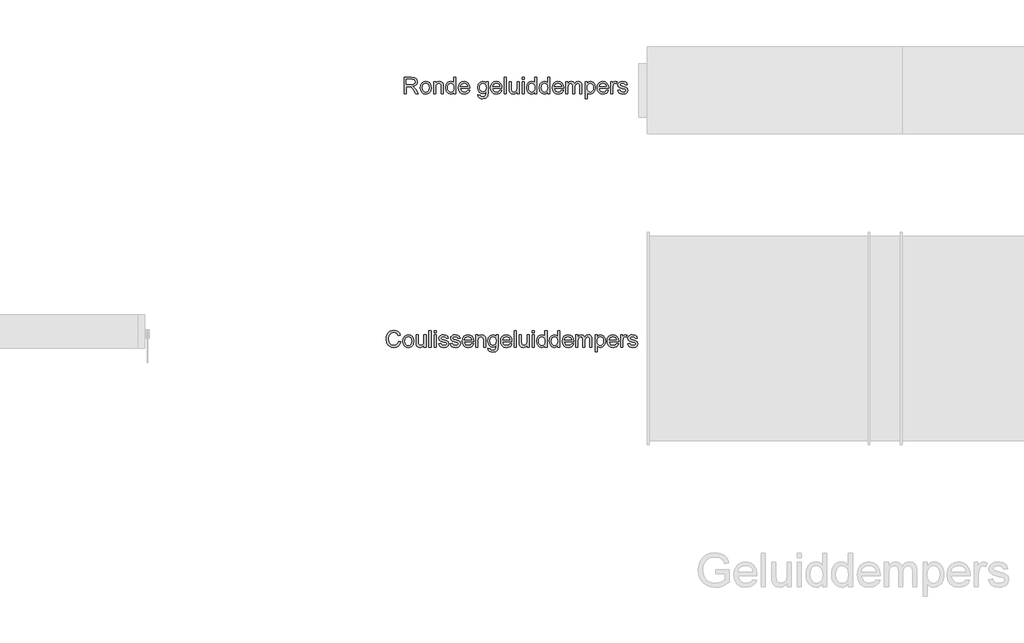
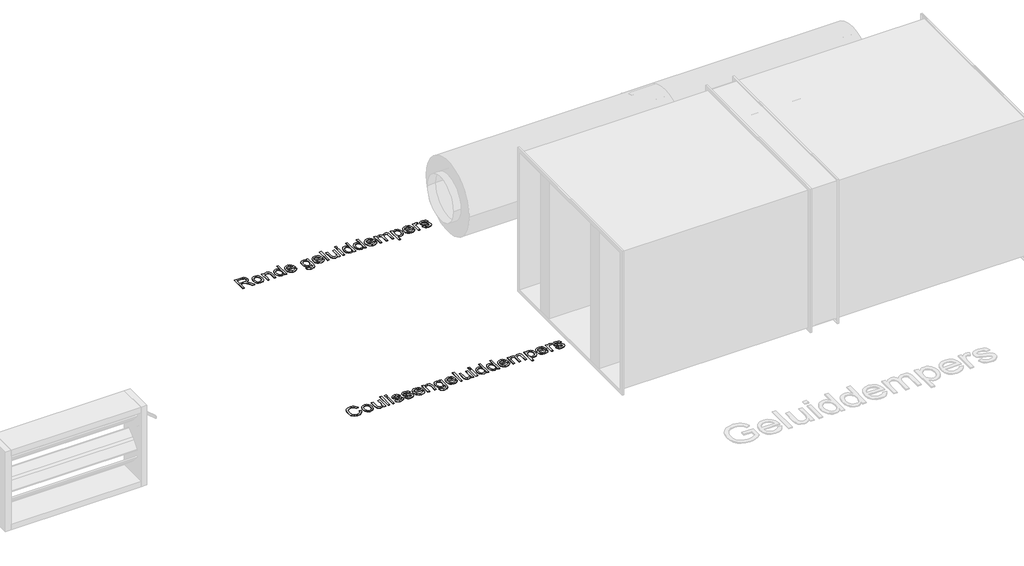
# One storey, part 9 of 10: 2 proxies.
"""IFC4 building model written with IfcOpenShell, lengths in millimetres."""

import ifcopenshell
import ifcopenshell.guid

model = None  # the IFC model being written
_history = None  # IfcOwnerHistory: only IFC2X3 demands one
_inside = {}  # id of a spatial element -> (the spatial element, [elements in it])
_under = {}  # id of a project, library or spatial element -> (it, [spatial elements below it])
_declared = {}  # id of a project -> (the project, [libraries it declares])
_typed = {}  # id of a type object -> (the type object, [elements of that type])
_made_of = {}  # id of a material, layer set ... -> (it, [elements and type objects made of it])


def new_model(schema):
    """Start an empty IFC model of exactly this schema.

    Asked for "IFC4X3", IfcOpenShell would pick the latest addendum, in which some entities
    have other attributes; the version numbers below select the first issue.
    IFC2X3 requires an IfcOwnerHistory on every rooted entity: one is made here for all.
    """
    global model, _history
    if schema == "IFC4X3":
        model = ifcopenshell.file(schema_version=(4, 3, 0, 0))
    else:
        model = ifcopenshell.file(schema=schema)
    _inside.clear()
    _under.clear()
    _declared.clear()
    _typed.clear()
    _made_of.clear()
    _history = None
    if model.schema == "IFC2X3":
        org = make("IfcOrganization", Name="unknown")
        user = make(
            "IfcPersonAndOrganization",
            ThePerson=make("IfcPerson", FamilyName="unknown"),
            TheOrganization=org,
        )
        app = make(
            "IfcApplication",
            ApplicationDeveloper=org,
            Version="unknown",
            ApplicationFullName="unknown",
            ApplicationIdentifier="unknown",
        )
        _history = make(
            "IfcOwnerHistory",
            OwningUser=user,
            OwningApplication=app,
            ChangeAction="ADDED",
            CreationDate=0,
        )
    return model


def make(cls, **values):
    """One entity of the class cls with the attributes given. An attribute that is None is left unset."""
    return model.create_entity(
        cls, **{name: value for name, value in values.items() if value is not None}
    )


def rooted(cls, **values):
    """An entity with a GlobalId (a new one), such as an element, a storey or a relation."""
    return make(cls, GlobalId=ifcopenshell.guid.new(), OwnerHistory=_history, **values)


def si_unit(unit_type, name, prefix=None):
    """IfcSIUnit, for example si_unit("LENGTHUNIT", "METRE", prefix="MILLI")."""
    return make("IfcSIUnit", UnitType=unit_type, Prefix=prefix, Name=name)


def assignment(units):
    """IfcUnitAssignment: the units of a project."""
    return None if units is None else make("IfcUnitAssignment", Units=units)


def point(xyz):
    """IfcCartesianPoint."""
    return None if xyz is None else make("IfcCartesianPoint", Coordinates=xyz)


def direction(xyz):
    """IfcDirection."""
    return None if xyz is None else make("IfcDirection", DirectionRatios=xyz)


def frame(location, z_axis=None, x_axis=None):
    """IfcAxis2Placement3D, a coordinate frame: its origin and axes. An axis left out is left unset."""
    return make(
        "IfcAxis2Placement3D",
        Location=point(location),
        Axis=direction(z_axis),
        RefDirection=direction(x_axis),
    )


def origin():
    """The frame at (0, 0, 0) with its axes left unset."""
    return frame((0.0, 0.0, 0.0))


def origin_with_axes():
    """The frame at (0, 0, 0) with the z axis (0, 0, 1) and the x axis (1, 0, 0) written out."""
    return frame((0.0, 0.0, 0.0), z_axis=(0.0, 0.0, 1.0), x_axis=(1.0, 0.0, 0.0))


def place(relative_to, where):
    """IfcLocalPlacement: puts the frame where relative to a parent placement (None: the world)."""
    return make(
        "IfcLocalPlacement", PlacementRelTo=relative_to, RelativePlacement=where
    )


def context(
    kind, dimensions, precision=None, world=None, true_north=None, identifier=None
):
    """IfcGeometricRepresentationContext, for example the 3D "Model" context."""
    return make(
        "IfcGeometricRepresentationContext",
        ContextIdentifier=identifier,
        ContextType=kind,
        CoordinateSpaceDimension=dimensions,
        Precision=precision,
        WorldCoordinateSystem=world,
        TrueNorth=true_north,
    )


def project(units=None, contexts=None):
    """IfcProject with its units and contexts."""
    return rooted(
        "IfcProject",
        Name="project",
        RepresentationContexts=contexts,
        UnitsInContext=assignment(units),
    )


def spatial(cls, under=None, at=None, **own):
    """A site, building, storey or space (cls), placed at a placement, below another one or the project."""
    s = rooted(cls, ObjectPlacement=at, **own)
    if under is not None:
        _under.setdefault(under.id(), (under, []))[1].append(s)
    return s


def polyline(points):
    """IfcPolyline through the points."""
    return make("IfcPolyline", Points=[point(p) for p in points])


def outline(outer, holes=None, kind="AREA"):
    """IfcArbitraryClosedProfileDef: a profile drawn as a closed curve; with holes, ...WithVoids."""
    if holes is None:
        return make("IfcArbitraryClosedProfileDef", ProfileType=kind, OuterCurve=outer)
    return make(
        "IfcArbitraryProfileDefWithVoids",
        ProfileType=kind,
        OuterCurve=outer,
        InnerCurves=holes,
    )


def extrude(swept, where, along, depth):
    """IfcExtrudedAreaSolid: the profile swept, set in the frame where, extruded along a direction by depth."""
    return make(
        "IfcExtrudedAreaSolid",
        SweptArea=swept,
        Position=where,
        ExtrudedDirection=direction(along),
        Depth=depth,
    )


def shape(context_of_items, identifier, shape_type, items):
    """IfcShapeRepresentation: the items that make up one representation, for example the "Body"."""
    return make(
        "IfcShapeRepresentation",
        ContextOfItems=context_of_items,
        RepresentationIdentifier=identifier,
        RepresentationType=shape_type,
        Items=items,
    )


def made_of(thing, what):
    """Note that an element or type object is made of a material, layer set ...; save() writes the relation."""
    if what is not None:
        _made_of.setdefault(what.id(), (what, []))[1].append(thing)
    return thing


def element(
    cls,
    number,
    at=None,
    inside=None,
    cuts=None,
    type_object=None,
    material=None,
    context=None,
    identifier="Body",
    shape_type=None,
    held_by="IfcProductDefinitionShape",
    body=None,
    shapes=None,
    **own,
):
    """One element of the class cls, such as IfcWall. Its Tag is "e" and its number.

    at: its placement. inside: the storey or other place that contains it. cuts: it is an
    opening in that element (IfcRelVoidsElement). A single representation is given by context,
    identifier, shape_type and body (its items); several are given by shapes. held_by: the class
    of the entity that holds the representations. save() writes the other relations.
    """
    e = rooted(cls, Tag="e%d" % number, ObjectPlacement=at, **own)
    if body is not None:
        shapes = [shape(context, identifier, shape_type, body)]
    if shapes is not None:
        e.Representation = make(held_by, Representations=shapes)
    if inside is not None:
        _inside.setdefault(inside.id(), (inside, []))[1].append(e)
    if cuts is not None:
        rooted(
            "IfcRelVoidsElement", RelatingBuildingElement=cuts, RelatedOpeningElement=e
        )
    if type_object is not None:
        _typed.setdefault(type_object.id(), (type_object, []))[1].append(e)
    return made_of(e, material)


def aggregate(whole, parts):
    """IfcRelAggregates: a whole, such as a stair, and the parts it consists of."""
    return rooted("IfcRelAggregates", RelatingObject=whole, RelatedObjects=parts)


def save(model, path):
    """Write the relations noted so far, then the file.

    IfcRelAggregates (storeys below a building ...), IfcRelContainedInSpatialStructure (elements
    in a storey), IfcRelDefinesByType, IfcRelAssociatesMaterial and IfcRelDeclares: one each for
    every whole, place, type object, material and project.
    """
    for whole, parts in _under.values():
        aggregate(whole, parts)
    for where, things in _inside.values():
        rooted(
            "IfcRelContainedInSpatialStructure",
            RelatedElements=things,
            RelatingStructure=where,
        )
    for kind, things in _typed.values():
        rooted("IfcRelDefinesByType", RelatedObjects=things, RelatingType=kind)
    for what, things in _made_of.values():
        rooted("IfcRelAssociatesMaterial", RelatedObjects=things, RelatingMaterial=what)
    for by, libraries in _declared.values():
        rooted("IfcRelDeclares", RelatingContext=by, RelatedDefinitions=libraries)
    model.write(path)


model = new_model("IFC4")

# Units and contexts
model_context = context("Model", 3, world=origin())
ifc_project = project(units=[si_unit("LENGTHUNIT", "METRE", prefix="MILLI")], contexts=[model_context])

# Site, building, storey
site = spatial("IfcSite", under=ifc_project)
building = spatial("IfcBuilding", under=site)
storey = spatial("IfcBuildingStorey", under=building, Name="Ventilatieroosters", Elevation=0.0)

# Proxies
placement = place(None, origin())
element("IfcBuildingElementProxy", 1, Name="100mm", ObjectType="100mm", at=placement, inside=storey, context=model_context, shape_type="SweptSolid", body=[
    extrude(outline(polyline([(17095.3673206, -15089.2400599), (17107.6750129, -15092.4131369), (17101.9959264, -15106.755084), (17093.0836668, -15117.2328484), (17081.376936, -15123.6421032), (17067.314436, -15125.7785215), (17053.0385946, -15124.1619349), (17041.7014552, -15119.3121753), (17033.0115514, -15111.3975119), (17026.6774168, -15100.5862138), (17021.5211668, -15074.2640984), (17022.9784985, -15059.9071272), (17027.3504937, -15047.5092907), (17034.4087869, -15037.4642186), (17043.9250129, -15030.1655407), (17067.5788591, -15024.2400599), (17081.0734504, -15026.1571272), (17092.2303014, -15031.9083292), (17100.7008543, -15041.1390984), (17106.1365514, -15053.4948676), (17093.8288591, -15056.4275599), (17083.7327052, -15041.2953484), (17067.0980898, -15036.5477522), (17047.8432821, -15041.8121753), (17036.9658783, -15055.9467907), (17033.8288591, -15074.2400599), (17037.5428014, -15095.441983), (17049.1053014, -15108.9876561), (17066.0884744, -15113.4708292), (17076.3619119, -15111.9443869), (17084.9226091, -15107.3650599), (17091.3859504, -15099.7809253), (17095.3673206, -15089.2400599)])), origin_with_axes(), (0.0, 0.0, 1.0), 2.0),
    extrude(outline(polyline([(17119.9827052, -15088.0862138), (17122.6449648, -15070.6523196), (17130.6317437, -15058.3987138), (17140.4995321, -15052.395108), (17152.314436, -15050.3939061), (17165.2441235, -15052.8308051), (17175.5716475, -15060.1415022), (17182.3414793, -15071.7490744), (17184.5980898, -15087.0765984), (17180.6077052, -15108.9756369), (17168.9851091, -15121.3674638), (17152.314436, -15125.7785215), (17139.2284985, -15123.3506369), (17128.9129937, -15116.066983), (17122.2152773, -15104.2160215), (17119.9827052, -15088.0862138)]), holes=[polyline([(17132.2903975, -15088.0621753), (17133.7146764, -15099.2009974), (17137.9875129, -15107.1366946), (17144.4178014, -15111.8872955), (17152.314436, -15113.4708292), (17160.1750129, -15111.8782811), (17166.5932821, -15107.1006369), (17170.8661187, -15099.0597715), (17172.2903975, -15087.6775599), (17170.8571043, -15076.8632571), (17166.5572244, -15069.035733), (17160.1299408, -15064.2851321), (17152.314436, -15062.7015984), (17144.4178014, -15064.2791224), (17137.9875129, -15069.0116946), (17133.7146764, -15076.9293628), (17132.2903975, -15088.0621753)])]), origin_with_axes(), (0.0, 0.0, 1.0), 2.0),
    extrude(outline(polyline([(17244.5980898, -15124.2400599), (17244.5980898, -15111.8121753), (17234.9586668, -15122.2869349), (17222.3865514, -15125.7785215), (17210.8120321, -15123.3265984), (17202.8312629, -15117.1727522), (17199.1653975, -15108.1102522), (17198.4442437, -15096.6679446), (17198.4442437, -15051.9323676), (17210.751936, -15051.9323676), (17210.751936, -15090.8746753), (17211.4971283, -15103.4227522), (17216.3649168, -15110.7905407), (17225.5355898, -15113.4708292), (17235.8120321, -15110.7304446), (17242.6028975, -15103.2665022), (17244.5980898, -15089.5525599), (17244.5980898, -15051.9323676), (17256.9057821, -15051.9323676), (17256.9057821, -15124.2400599), (17244.5980898, -15124.2400599)])), origin_with_axes(), (0.0, 0.0, 1.0), 2.0),
    extrude(outline(polyline([(17273.8288591, -15124.2400599), (17273.8288591, -15025.7785215), (17286.1365514, -15025.7785215), (17286.1365514, -15124.2400599), (17273.8288591, -15124.2400599)])), origin_with_axes(), (0.0, 0.0, 1.0), 2.0),
    extrude(outline(polyline([(17304.5980898, -15124.2400599), (17304.5980898, -15051.9323676), (17316.9057821, -15051.9323676), (17316.9057821, -15124.2400599), (17304.5980898, -15124.2400599)])), origin_with_axes(), (0.0, 0.0, 1.0), 2.0),
    extrude(outline(polyline([(17304.5980898, -15038.0862138), (17304.5980898, -15025.7785215), (17316.9057821, -15025.7785215), (17316.9057821, -15038.0862138), (17304.5980898, -15038.0862138)])), origin_with_axes(), (0.0, 0.0, 1.0), 2.0),
    extrude(outline(polyline([(17330.751936, -15102.7015984), (17343.0596283, -15101.1631369), (17348.7567437, -15110.2977522), (17361.8096283, -15113.4708292), (17374.3577052, -15110.5621753), (17378.4442437, -15103.7352522), (17374.3336668, -15098.2064061), (17361.6653975, -15094.6967907), (17343.1317437, -15088.6751561), (17335.0428014, -15081.6439061), (17332.2903975, -15071.7160215), (17334.501936, -15062.5453484), (17340.5355898, -15055.5381369), (17348.3601091, -15051.8963099), (17358.9490514, -15050.3939061), (17373.9250129, -15052.8097715), (17383.4442437, -15059.348233), (17387.6750129, -15070.3939061), (17375.3673206, -15071.9323676), (17370.7399168, -15065.1415022), (17359.9105898, -15062.7015984), (17348.1317437, -15065.0333292), (17344.5980898, -15070.4660215), (17346.064436, -15074.0477522), (17350.6557821, -15076.7640984), (17361.2567437, -15079.3842907), (17379.3216475, -15085.1775599), (17387.7110706, -15091.7400599), (17390.751936, -15102.4371753), (17387.1822244, -15114.2160215), (17376.8817437, -15122.7616946), (17361.6413591, -15125.7785215), (17349.2315033, -15124.3241946), (17340.1750129, -15119.9612138), (17334.1293398, -15112.7376561), (17330.751936, -15102.7015984)])), origin_with_axes(), (0.0, 0.0, 1.0), 2.0),
    extrude(outline(polyline([(17399.9827052, -15102.7015984), (17412.2903975, -15101.1631369), (17417.9875129, -15110.2977522), (17431.0403975, -15113.4708292), (17443.5884744, -15110.5621753), (17447.6750129, -15103.7352522), (17443.564436, -15098.2064061), (17430.8961668, -15094.6967907), (17412.3625129, -15088.6751561), (17404.2735706, -15081.6439061), (17401.5211668, -15071.7160215), (17403.7327052, -15062.5453484), (17409.7663591, -15055.5381369), (17417.5908783, -15051.8963099), (17428.1798206, -15050.3939061), (17443.1557821, -15052.8097715), (17452.6750129, -15059.348233), (17456.9057821, -15070.3939061), (17444.5980898, -15071.9323676), (17439.970686, -15065.1415022), (17429.1413591, -15062.7015984), (17417.3625129, -15065.0333292), (17413.8288591, -15070.4660215), (17415.2952052, -15074.0477522), (17419.8865514, -15076.7640984), (17430.4875129, -15079.3842907), (17448.5524168, -15085.1775599), (17456.9418398, -15091.7400599), (17459.9827052, -15102.4371753), (17456.4129937, -15114.2160215), (17446.1125129, -15122.7616946), (17430.8721283, -15125.7785215), (17418.4622725, -15124.3241946), (17409.4057821, -15119.9612138), (17403.3601091, -15112.7376561), (17399.9827052, -15102.7015984)])), origin_with_axes(), (0.0, 0.0, 1.0), 2.0),
    extrude(outline(polyline([(17524.4538591, -15102.7015984), (17536.5211668, -15104.2400599), (17532.17321, -15113.332608), (17525.2351091, -15120.129483), (17515.8631139, -15124.3662619), (17504.2134744, -15125.7785215), (17489.7723687, -15123.3416224), (17478.6605898, -15116.0309253), (17471.5752533, -15104.3211897), (17469.2134744, -15088.6871753), (17471.5992918, -15072.5273196), (17478.7567437, -15060.441983), (17489.7182821, -15052.9059253), (17503.5163591, -15050.3939061), (17516.8847485, -15052.8999157), (17527.5668398, -15060.4179446), (17534.5710466, -15072.4792426), (17536.9057821, -15088.6150599), (17536.8336668, -15091.9323676), (17481.5211668, -15091.9323676), (17483.6515754, -15101.145108), (17488.6004937, -15107.9179446), (17504.4538591, -15113.4708292), (17516.5211668, -15110.8987138), (17524.4538591, -15102.7015984)]), holes=[polyline([(17481.5211668, -15079.6246753), (17524.5980898, -15079.6246753), (17519.6702052, -15068.4708292), (17512.4947244, -15064.1439061), (17503.4682821, -15062.7015984), (17488.3120321, -15067.3049638), (17481.5211668, -15079.6246753)])]), origin_with_axes(), (0.0, 0.0, 1.0), 2.0),
    extrude(outline(polyline([(17549.2134744, -15124.2400599), (17549.2134744, -15051.9323676), (17561.5211668, -15051.9323676), (17561.5211668, -15062.0285215), (17570.9322244, -15053.3025599), (17583.7807821, -15050.3939061), (17595.4033783, -15052.7376561), (17603.3360706, -15058.8915022), (17607.0259744, -15067.941983), (17607.6750129, -15079.8410215), (17607.6750129, -15124.2400599), (17595.3673206, -15124.2400599), (17595.3673206, -15081.4996753), (17593.9490514, -15070.6102522), (17588.9370321, -15064.8530407), (17580.4875129, -15062.7015984), (17567.1341475, -15067.5333292), (17562.9244119, -15074.5345311), (17561.5211668, -15085.8746753), (17561.5211668, -15124.2400599), (17549.2134744, -15124.2400599)])), origin_with_axes(), (0.0, 0.0, 1.0), 2.0),
    extrude(outline(polyline([(17621.5211668, -15130.3939061), (17633.8288591, -15131.9323676), (17637.8192437, -15138.4227522), (17649.7663591, -15141.1631369), (17662.3625129, -15138.0621753), (17668.3721283, -15129.3602522), (17669.2134744, -15115.0092907), (17660.5476091, -15121.9323676), (17649.9827052, -15124.2400599), (17637.2934023, -15121.5537619), (17627.8312629, -15113.4948676), (17621.9448446, -15101.6799638), (17619.9827052, -15087.7256369), (17623.5043398, -15068.6511176), (17633.6966475, -15055.1535215), (17649.3817437, -15050.3939061), (17660.361311, -15053.0862138), (17669.2134744, -15061.1631369), (17669.2134744, -15051.9323676), (17681.5211668, -15051.9323676), (17681.5211668, -15114.3602522), (17678.1557821, -15138.2665022), (17667.4947244, -15149.3842907), (17649.5259744, -15153.4708292), (17638.0746523, -15152.0315263), (17629.0572244, -15147.7136176), (17623.2729696, -15140.505084), (17621.5211668, -15130.3939061)]), holes=[polyline([(17632.2903975, -15086.8842907), (17633.6034985, -15098.1733532), (17637.5428014, -15105.9347715), (17643.4652773, -15110.4329686), (17650.7278975, -15111.9323676), (17657.9364312, -15110.441983), (17663.8889552, -15105.9708292), (17667.8823446, -15098.3085696), (17669.2134744, -15087.2448676), (17667.8432821, -15076.5747955), (17663.7327052, -15068.8915022), (17657.6930418, -15064.2490744), (17650.5355898, -15062.7015984), (17643.5073446, -15064.2250359), (17637.6149168, -15068.7953484), (17633.6215273, -15076.364459), (17632.2903975, -15086.8842907)])]), origin_with_axes(), (0.0, 0.0, 1.0), 2.0),
    extrude(outline(polyline([(17750.6077052, -15102.7015984), (17762.6750129, -15104.2400599), (17758.3270562, -15113.332608), (17751.3889552, -15120.129483), (17742.01696, -15124.3662619), (17730.3673206, -15125.7785215), (17715.9262148, -15123.3416224), (17704.814436, -15116.0309253), (17697.7290994, -15104.3211897), (17695.3673206, -15088.6871753), (17697.7531379, -15072.5273196), (17704.9105898, -15060.441983), (17715.8721283, -15052.9059253), (17729.6702052, -15050.3939061), (17743.0385946, -15052.8999157), (17753.720686, -15060.4179446), (17760.7248927, -15072.4792426), (17763.0596283, -15088.6150599), (17762.9875129, -15091.9323676), (17707.6750129, -15091.9323676), (17709.8054216, -15101.145108), (17714.7543398, -15107.9179446), (17730.6077052, -15113.4708292), (17742.6750129, -15110.8987138), (17750.6077052, -15102.7015984)]), holes=[polyline([(17707.6750129, -15079.6246753), (17750.751936, -15079.6246753), (17745.8240514, -15068.4708292), (17738.6485706, -15064.1439061), (17729.6221283, -15062.7015984), (17714.4658783, -15067.3049638), (17707.6750129, -15079.6246753)])]), origin_with_axes(), (0.0, 0.0, 1.0), 2.0),
    extrude(outline(polyline([(17775.3673206, -15124.2400599), (17775.3673206, -15025.7785215), (17787.6750129, -15025.7785215), (17787.6750129, -15124.2400599), (17775.3673206, -15124.2400599)])), origin_with_axes(), (0.0, 0.0, 1.0), 2.0),
    extrude(outline(polyline([(17852.2903975, -15124.2400599), (17852.2903975, -15111.8121753), (17842.6509744, -15122.2869349), (17830.0788591, -15125.7785215), (17818.5043398, -15123.3265984), (17810.5235706, -15117.1727522), (17806.8577052, -15108.1102522), (17806.1365514, -15096.6679446), (17806.1365514, -15051.9323676), (17818.4442437, -15051.9323676), (17818.4442437, -15090.8746753), (17819.189436, -15103.4227522), (17824.0572244, -15110.7905407), (17833.2278975, -15113.4708292), (17843.5043398, -15110.7304446), (17850.2952052, -15103.2665022), (17852.2903975, -15089.5525599), (17852.2903975, -15051.9323676), (17864.5980898, -15051.9323676), (17864.5980898, -15124.2400599), (17852.2903975, -15124.2400599)])), origin_with_axes(), (0.0, 0.0, 1.0), 2.0),
    extrude(outline(polyline([(17881.5211668, -15124.2400599), (17881.5211668, -15051.9323676), (17893.8288591, -15051.9323676), (17893.8288591, -15124.2400599), (17881.5211668, -15124.2400599)])), origin_with_axes(), (0.0, 0.0, 1.0), 2.0),
    extrude(outline(polyline([(17881.5211668, -15038.0862138), (17881.5211668, -15025.7785215), (17893.8288591, -15025.7785215), (17893.8288591, -15038.0862138), (17881.5211668, -15038.0862138)])), origin_with_axes(), (0.0, 0.0, 1.0), 2.0),
    extrude(outline(polyline([(17956.9057821, -15124.2400599), (17956.9057821, -15112.629483), (17948.7627533, -15122.4912619), (17937.5067437, -15125.7785215), (17922.2663591, -15121.0189061), (17911.4971283, -15107.7376561), (17907.6750129, -15088.1583292), (17911.1966475, -15068.566983), (17921.7495321, -15055.0814061), (17937.4586668, -15050.3939061), (17948.8048206, -15053.7472715), (17956.9057821, -15062.4612138), (17956.9057821, -15025.7785215), (17969.2134744, -15025.7785215), (17969.2134744, -15124.2400599), (17956.9057821, -15124.2400599)]), holes=[polyline([(17919.9827052, -15088.1102522), (17921.3709264, -15099.2430647), (17925.5355898, -15107.160733), (17931.5872725, -15111.8933051), (17938.6365514, -15113.4708292), (17945.6828254, -15111.9654205), (17951.5812629, -15107.4491946), (17955.5746523, -15099.8380167), (17956.9057821, -15089.0477522), (17955.5506139, -15077.2508772), (17951.4851091, -15069.0717907), (17945.4364312, -15064.2941465), (17938.1317437, -15062.7015984), (17931.0103494, -15064.2310455), (17925.1750129, -15068.8193869), (17921.2807821, -15076.7009974), (17919.9827052, -15088.1102522)])]), origin_with_axes(), (0.0, 0.0, 1.0), 2.0),
    extrude(outline(polyline([(18032.2903975, -15124.2400599), (18032.2903975, -15112.629483), (18024.1473687, -15122.4912619), (18012.8913591, -15125.7785215), (17997.6509744, -15121.0189061), (17986.8817437, -15107.7376561), (17983.0596283, -15088.1583292), (17986.5812629, -15068.566983), (17997.1341475, -15055.0814061), (18012.8432821, -15050.3939061), (18024.189436, -15053.7472715), (18032.2903975, -15062.4612138), (18032.2903975, -15025.7785215), (18044.5980898, -15025.7785215), (18044.5980898, -15124.2400599), (18032.2903975, -15124.2400599)]), holes=[polyline([(17995.3673206, -15088.1102522), (17996.7555418, -15099.2430647), (18000.9202052, -15107.160733), (18006.9718879, -15111.8933051), (18014.0211668, -15113.4708292), (18021.0674408, -15111.9654205), (18026.9658783, -15107.4491946), (18030.9592677, -15099.8380167), (18032.2903975, -15089.0477522), (18030.9352293, -15077.2508772), (18026.8697244, -15069.0717907), (18020.8210466, -15064.2941465), (18013.5163591, -15062.7015984), (18006.3949648, -15064.2310455), (18000.5596283, -15068.8193869), (17996.6653975, -15076.7009974), (17995.3673206, -15088.1102522)])]), origin_with_axes(), (0.0, 0.0, 1.0), 2.0),
    extrude(outline(polyline([(18113.6846283, -15102.7015984), (18125.751936, -15104.2400599), (18121.4039793, -15113.332608), (18114.4658783, -15120.129483), (18105.0938831, -15124.3662619), (18093.4442437, -15125.7785215), (18079.0031379, -15123.3416224), (18067.8913591, -15116.0309253), (18060.8060225, -15104.3211897), (18058.4442437, -15088.6871753), (18060.830061, -15072.5273196), (18067.9875129, -15060.441983), (18078.9490514, -15052.9059253), (18092.7471283, -15050.3939061), (18106.1155177, -15052.8999157), (18116.7976091, -15060.4179446), (18123.8018158, -15072.4792426), (18126.1365514, -15088.6150599), (18126.064436, -15091.9323676), (18070.751936, -15091.9323676), (18072.8823446, -15101.145108), (18077.8312629, -15107.9179446), (18093.6846283, -15113.4708292), (18105.751936, -15110.8987138), (18113.6846283, -15102.7015984)]), holes=[polyline([(18070.751936, -15079.6246753), (18113.8288591, -15079.6246753), (18108.9009744, -15068.4708292), (18101.7254937, -15064.1439061), (18092.6990514, -15062.7015984), (18077.5428014, -15067.3049638), (18070.751936, -15079.6246753)])]), origin_with_axes(), (0.0, 0.0, 1.0), 2.0),
    extrude(outline(polyline([(18138.4442437, -15124.2400599), (18138.4442437, -15051.9323676), (18150.751936, -15051.9323676), (18150.751936, -15063.8314061), (18159.2134744, -15054.0838099), (18171.2567437, -15050.3939061), (18183.5884744, -15054.1559253), (18190.3673206, -15064.6967907), (18199.970686, -15053.9696272), (18212.0980898, -15050.3939061), (18221.3498927, -15051.8812859), (18228.1918398, -15056.3434253), (18232.4196043, -15063.9005167), (18233.8288591, -15074.6727522), (18233.8288591, -15124.2400599), (18221.5211668, -15124.2400599), (18221.5211668, -15079.9612138), (18220.3793398, -15069.6847715), (18216.2447244, -15064.6246753), (18209.2134744, -15062.7015984), (18197.1101091, -15067.629483), (18192.2903975, -15083.4227522), (18192.2903975, -15124.2400599), (18179.9827052, -15124.2400599), (18179.9827052, -15078.5910215), (18177.1341475, -15066.6679446), (18167.7952052, -15062.7015984), (18158.6846283, -15065.3458292), (18152.626936, -15073.0862138), (18150.751936, -15087.7737138), (18150.751936, -15124.2400599), (18138.4442437, -15124.2400599)])), origin_with_axes(), (0.0, 0.0, 1.0), 2.0),
    extrude(outline(polyline([(18252.2903975, -15151.9323676), (18252.2903975, -15051.9323676), (18264.5980898, -15051.9323676), (18264.5980898, -15063.9996753), (18273.1077052, -15053.7953484), (18284.5980898, -15050.3939061), (18300.1990514, -15055.1535215), (18310.3913591, -15068.566983), (18313.8288591, -15087.5333292), (18309.9466475, -15107.473233), (18298.6726091, -15121.0549638), (18283.1077052, -15125.7785215), (18272.3985706, -15122.6174638), (18264.5980898, -15114.6246753), (18264.5980898, -15151.9323676), (18252.2903975, -15151.9323676)]), holes=[polyline([(18264.5980898, -15088.6631369), (18265.9292196, -15099.6967907), (18269.9226091, -15107.4131369), (18275.8150369, -15111.9564061), (18282.8432821, -15113.4708292), (18289.98571, -15111.9023196), (18296.0283783, -15107.1967907), (18300.1479696, -15099.1979926), (18301.5211668, -15087.7496753), (18300.1810225, -15076.7761176), (18296.1605898, -15068.9515984), (18290.2771764, -15064.2640984), (18283.3480898, -15062.7015984), (18276.39196, -15064.3632571), (18270.283186, -15069.348233), (18266.0193639, -15077.5002763), (18264.5980898, -15088.6631369)])]), origin_with_axes(), (0.0, 0.0, 1.0), 2.0),
    extrude(outline(polyline([(18378.3000129, -15102.7015984), (18390.3673206, -15104.2400599), (18386.0193639, -15113.332608), (18379.0812629, -15120.129483), (18369.7092677, -15124.3662619), (18358.0596283, -15125.7785215), (18343.6185225, -15123.3416224), (18332.5067437, -15116.0309253), (18325.4214071, -15104.3211897), (18323.0596283, -15088.6871753), (18325.4454456, -15072.5273196), (18332.6028975, -15060.441983), (18343.564436, -15052.9059253), (18357.3625129, -15050.3939061), (18370.7309023, -15052.8999157), (18381.4129937, -15060.4179446), (18388.4172004, -15072.4792426), (18390.751936, -15088.6150599), (18390.6798206, -15091.9323676), (18335.3673206, -15091.9323676), (18337.4977293, -15101.145108), (18342.4466475, -15107.9179446), (18358.3000129, -15113.4708292), (18370.3673206, -15110.8987138), (18378.3000129, -15102.7015984)]), holes=[polyline([(18335.3673206, -15079.6246753), (18378.4442437, -15079.6246753), (18373.5163591, -15068.4708292), (18366.3408783, -15064.1439061), (18357.314436, -15062.7015984), (18342.158186, -15067.3049638), (18335.3673206, -15079.6246753)])]), origin_with_axes(), (0.0, 0.0, 1.0), 2.0),
    extrude(outline(polyline([(18403.0596283, -15124.2400599), (18403.0596283, -15051.9323676), (18413.8288591, -15051.9323676), (18413.8288591, -15062.629483), (18421.4730898, -15052.7737138), (18429.1653975, -15050.3939061), (18441.5211668, -15054.191983), (18437.4105898, -15065.2256369), (18428.7567437, -15062.7015984), (18421.7976091, -15065.129483), (18417.3625129, -15071.8602522), (18415.3673206, -15086.2352522), (18415.3673206, -15124.2400599), (18403.0596283, -15124.2400599)])), origin_with_axes(), (0.0, 0.0, 1.0), 2.0),
    extrude(outline(polyline([(18444.5980898, -15102.7015984), (18456.9057821, -15101.1631369), (18462.6028975, -15110.2977522), (18475.6557821, -15113.4708292), (18488.2038591, -15110.5621753), (18492.2903975, -15103.7352522), (18488.1798206, -15098.2064061), (18475.5115514, -15094.6967907), (18456.9778975, -15088.6751561), (18448.8889552, -15081.6439061), (18446.1365514, -15071.7160215), (18448.3480898, -15062.5453484), (18454.3817437, -15055.5381369), (18462.2062629, -15051.8963099), (18472.7952052, -15050.3939061), (18487.7711668, -15052.8097715), (18497.2903975, -15059.348233), (18501.5211668, -15070.3939061), (18489.2134744, -15071.9323676), (18484.5860706, -15065.1415022), (18473.7567437, -15062.7015984), (18461.9778975, -15065.0333292), (18458.4442437, -15070.4660215), (18459.9105898, -15074.0477522), (18464.501936, -15076.7640984), (18475.1028975, -15079.3842907), (18493.1678014, -15085.1775599), (18501.5572244, -15091.7400599), (18504.5980898, -15102.4371753), (18501.0283783, -15114.2160215), (18490.7278975, -15122.7616946), (18475.4875129, -15125.7785215), (18463.0776571, -15124.3241946), (18454.0211668, -15119.9612138), (18447.9754937, -15112.7376561), (18444.5980898, -15102.7015984)])), origin_with_axes(), (0.0, 0.0, 1.0), 2.0),
])
element("IfcBuildingElementProxy", 2, Name="100mm", ObjectType="100mm", at=placement, inside=storey, context=model_context, shape_type="SweptSolid", body=[
    extrude(outline(polyline([(17128.5735509, -13631.5210593), (17128.5735509, -13533.0595208), (17171.0014355, -13533.0595208), (17190.7009547, -13535.7157708), (17201.4701855, -13545.1148093), (17205.4966278, -13560.0066362), (17203.8289595, -13569.7061554), (17198.8259547, -13577.7470208), (17190.337373, -13583.6424535), (17178.212974, -13586.9056747), (17185.2081663, -13592.1700977), (17195.1841278, -13604.838367), (17211.602397, -13631.5210593), (17197.2995124, -13631.5210593), (17184.4870124, -13611.1124054), (17175.2322047, -13597.60279), (17168.7298009, -13591.2205785), (17162.8764355, -13588.8768285), (17155.7370124, -13588.4441362), (17140.8812432, -13588.4441362), (17140.8812432, -13631.5210593), (17128.5735509, -13631.5210593)]), holes=[polyline([(17140.8812432, -13576.1364439), (17168.4293201, -13576.1364439), (17182.4798009, -13574.3936554), (17190.4605701, -13568.8167324), (17193.1889355, -13560.463367), (17187.9846086, -13549.6220208), (17171.5302817, -13545.3672131), (17140.8812432, -13545.3672131), (17140.8812432, -13576.1364439)])]), origin_with_axes(), (0.0, 0.0, 1.0), 2.0),
    extrude(outline(polyline([(17222.4197047, -13595.3672131), (17225.0819644, -13577.9333189), (17233.0687432, -13565.6797131), (17242.9365317, -13559.6761074), (17254.7514355, -13557.6749054), (17267.681123, -13560.1118045), (17278.008647, -13567.4225016), (17284.7784788, -13579.0300737), (17287.0350894, -13594.3575977), (17283.0447047, -13616.2566362), (17271.4221086, -13628.6484631), (17254.7514355, -13633.0595208), (17241.665498, -13630.6316362), (17231.3499932, -13623.3479824), (17224.6522769, -13611.4970208), (17222.4197047, -13595.3672131)]), holes=[polyline([(17234.727397, -13595.3431747), (17236.1516759, -13606.4819968), (17240.4245124, -13614.4176939), (17246.8548009, -13619.1682949), (17254.7514355, -13620.7518285), (17262.6120124, -13619.1592804), (17269.0302817, -13614.3816362), (17273.3031182, -13606.3407708), (17274.727397, -13594.9585593), (17273.2941038, -13584.1442564), (17268.994224, -13576.3167324), (17262.5669403, -13571.5661314), (17254.7514355, -13569.9825977), (17246.8548009, -13571.5601218), (17240.4245124, -13576.2926939), (17236.1516759, -13584.2103622), (17234.727397, -13595.3431747)])]), origin_with_axes(), (0.0, 0.0, 1.0), 2.0),
    extrude(outline(polyline([(17300.8812432, -13631.5210593), (17300.8812432, -13559.213367), (17313.1889355, -13559.213367), (17313.1889355, -13569.3095208), (17322.5999932, -13560.5835593), (17335.4485509, -13557.6749054), (17347.071147, -13560.0186554), (17355.0038394, -13566.1725016), (17358.6937432, -13575.2229824), (17359.3427817, -13587.1220208), (17359.3427817, -13631.5210593), (17347.0350894, -13631.5210593), (17347.0350894, -13588.7806747), (17345.6168201, -13577.8912516), (17340.6048009, -13572.13404), (17332.1552817, -13569.9825977), (17318.8019163, -13574.8143285), (17314.5921807, -13581.8155304), (17313.1889355, -13593.1556747), (17313.1889355, -13631.5210593), (17300.8812432, -13631.5210593)])), origin_with_axes(), (0.0, 0.0, 1.0), 2.0),
    extrude(outline(polyline([(17420.8812432, -13631.5210593), (17420.8812432, -13619.9104824), (17412.7382144, -13629.7722612), (17401.4822047, -13633.0595208), (17386.2418201, -13628.2999054), (17375.4725894, -13615.0186554), (17371.650474, -13595.4393285), (17375.1721086, -13575.8479824), (17385.7249932, -13562.3624054), (17401.4341278, -13557.6749054), (17412.7802817, -13561.0282708), (17420.8812432, -13569.7422131), (17420.8812432, -13533.0595208), (17433.1889355, -13533.0595208), (17433.1889355, -13631.5210593), (17420.8812432, -13631.5210593)]), holes=[polyline([(17383.9581663, -13595.3912516), (17385.3463874, -13606.5240641), (17389.5110509, -13614.4417324), (17395.5627336, -13619.1743045), (17402.6120124, -13620.7518285), (17409.6582865, -13619.2464199), (17415.556724, -13614.7301939), (17419.5501134, -13607.119016), (17420.8812432, -13596.3287516), (17419.5260749, -13584.5318766), (17415.4605701, -13576.35279), (17409.4118922, -13571.5751458), (17402.1072047, -13569.9825977), (17394.9858105, -13571.5120449), (17389.150474, -13576.1003862), (17385.2562432, -13583.9819968), (17383.9581663, -13595.3912516)])]), origin_with_axes(), (0.0, 0.0, 1.0), 2.0),
    extrude(outline(polyline([(17502.275474, -13609.9825977), (17514.3427817, -13611.5210593), (17509.9948249, -13620.6136074), (17503.056724, -13627.4104824), (17493.6847288, -13631.6472612), (17482.0350894, -13633.0595208), (17467.5939836, -13630.6226218), (17456.4822047, -13623.3119247), (17449.3968682, -13611.6021891), (17447.0350894, -13595.9681747), (17449.4209067, -13579.8083189), (17456.5783586, -13567.7229824), (17467.539897, -13560.1869247), (17481.337974, -13557.6749054), (17494.7063634, -13560.180915), (17505.3884547, -13567.6989439), (17512.3926615, -13579.760242), (17514.727397, -13595.8960593), (17514.6552817, -13599.213367), (17459.3427817, -13599.213367), (17461.4731903, -13608.4261074), (17466.4221086, -13615.1989439), (17482.275474, -13620.7518285), (17494.3427817, -13618.1797131), (17502.275474, -13609.9825977)]), holes=[polyline([(17459.3427817, -13586.9056747), (17502.4197047, -13586.9056747), (17497.4918201, -13575.7518285), (17490.3163394, -13571.4249054), (17481.289897, -13569.9825977), (17466.133647, -13574.5859631), (17459.3427817, -13586.9056747)])]), origin_with_axes(), (0.0, 0.0, 1.0), 2.0),
    extrude(outline(polyline([(17562.4197047, -13637.6749054), (17574.727397, -13639.213367), (17578.7177817, -13645.7037516), (17590.664897, -13648.4441362), (17603.2610509, -13645.3431747), (17609.2706663, -13636.6412516), (17610.1120124, -13622.29029), (17601.446147, -13629.213367), (17590.8812432, -13631.5210593), (17578.1919403, -13628.8347612), (17568.7298009, -13620.775867), (17562.8433826, -13608.9609631), (17560.8812432, -13595.0066362), (17564.4028778, -13575.932117), (17574.5951855, -13562.4345208), (17590.2802817, -13557.6749054), (17601.259849, -13560.3672131), (17610.1120124, -13568.4441362), (17610.1120124, -13559.213367), (17622.4197047, -13559.213367), (17622.4197047, -13621.6412516), (17619.0543201, -13645.5475016), (17608.3932624, -13656.66529), (17590.4245124, -13660.7518285), (17578.9731903, -13659.3125256), (17569.9557624, -13654.994617), (17564.1715076, -13647.7860833), (17562.4197047, -13637.6749054)]), holes=[polyline([(17573.1889355, -13594.16529), (17574.5020365, -13605.4543525), (17578.4413394, -13613.2157708), (17584.3638153, -13617.7139679), (17591.6264355, -13619.213367), (17598.8349692, -13617.7229824), (17604.7874932, -13613.2518285), (17608.7808826, -13605.5895689), (17610.1120124, -13594.525867), (17608.7418201, -13583.8557949), (17604.6312432, -13576.1725016), (17598.5915797, -13571.5300737), (17591.4341278, -13569.9825977), (17584.4058826, -13571.5060352), (17578.5134547, -13576.0763477), (17574.5200653, -13583.6454583), (17573.1889355, -13594.16529)])]), origin_with_axes(), (0.0, 0.0, 1.0), 2.0),
    extrude(outline(polyline([(17691.5062432, -13609.9825977), (17703.5735509, -13611.5210593), (17699.2255942, -13620.6136074), (17692.2874932, -13627.4104824), (17682.915498, -13631.6472612), (17671.2658586, -13633.0595208), (17656.8247528, -13630.6226218), (17645.712974, -13623.3119247), (17638.6276374, -13611.6021891), (17636.2658586, -13595.9681747), (17638.6516759, -13579.8083189), (17645.8091278, -13567.7229824), (17656.7706663, -13560.1869247), (17670.5687432, -13557.6749054), (17683.9371326, -13560.180915), (17694.619224, -13567.6989439), (17701.6234307, -13579.760242), (17703.9581663, -13595.8960593), (17703.8860509, -13599.213367), (17648.5735509, -13599.213367), (17650.7039595, -13608.4261074), (17655.6528778, -13615.1989439), (17671.5062432, -13620.7518285), (17683.5735509, -13618.1797131), (17691.5062432, -13609.9825977)]), holes=[polyline([(17648.5735509, -13586.9056747), (17691.650474, -13586.9056747), (17686.7225894, -13575.7518285), (17679.5471086, -13571.4249054), (17670.5206663, -13569.9825977), (17655.3644163, -13574.5859631), (17648.5735509, -13586.9056747)])]), origin_with_axes(), (0.0, 0.0, 1.0), 2.0),
    extrude(outline(polyline([(17716.2658586, -13631.5210593), (17716.2658586, -13533.0595208), (17728.5735509, -13533.0595208), (17728.5735509, -13631.5210593), (17716.2658586, -13631.5210593)])), origin_with_axes(), (0.0, 0.0, 1.0), 2.0),
    extrude(outline(polyline([(17793.1889355, -13631.5210593), (17793.1889355, -13619.0931747), (17783.5495124, -13629.5679343), (17770.977397, -13633.0595208), (17759.4028778, -13630.6075977), (17751.4221086, -13624.4537516), (17747.7562432, -13615.3912516), (17747.0350894, -13603.9489439), (17747.0350894, -13559.213367), (17759.3427817, -13559.213367), (17759.3427817, -13598.1556747), (17760.087974, -13610.7037516), (17764.9557624, -13618.07154), (17774.1264355, -13620.7518285), (17784.4028778, -13618.0114439), (17791.1937432, -13610.5475016), (17793.1889355, -13596.8335593), (17793.1889355, -13559.213367), (17805.4966278, -13559.213367), (17805.4966278, -13631.5210593), (17793.1889355, -13631.5210593)])), origin_with_axes(), (0.0, 0.0, 1.0), 2.0),
    extrude(outline(polyline([(17822.4197047, -13631.5210593), (17822.4197047, -13559.213367), (17834.727397, -13559.213367), (17834.727397, -13631.5210593), (17822.4197047, -13631.5210593)])), origin_with_axes(), (0.0, 0.0, 1.0), 2.0),
    extrude(outline(polyline([(17822.4197047, -13545.3672131), (17822.4197047, -13533.0595208), (17834.727397, -13533.0595208), (17834.727397, -13545.3672131), (17822.4197047, -13545.3672131)])), origin_with_axes(), (0.0, 0.0, 1.0), 2.0),
    extrude(outline(polyline([(17897.8043201, -13631.5210593), (17897.8043201, -13619.9104824), (17889.6612913, -13629.7722612), (17878.4052817, -13633.0595208), (17863.164897, -13628.2999054), (17852.3956663, -13615.0186554), (17848.5735509, -13595.4393285), (17852.0951855, -13575.8479824), (17862.6480701, -13562.3624054), (17878.3572047, -13557.6749054), (17889.7033586, -13561.0282708), (17897.8043201, -13569.7422131), (17897.8043201, -13533.0595208), (17910.1120124, -13533.0595208), (17910.1120124, -13631.5210593), (17897.8043201, -13631.5210593)]), holes=[polyline([(17860.8812432, -13595.3912516), (17862.2694644, -13606.5240641), (17866.4341278, -13614.4417324), (17872.4858105, -13619.1743045), (17879.5350894, -13620.7518285), (17886.5813634, -13619.2464199), (17892.4798009, -13614.7301939), (17896.4731903, -13607.119016), (17897.8043201, -13596.3287516), (17896.4491519, -13584.5318766), (17892.383647, -13576.35279), (17886.3349692, -13571.5751458), (17879.0302817, -13569.9825977), (17871.9088874, -13571.5120449), (17866.0735509, -13576.1003862), (17862.1793201, -13583.9819968), (17860.8812432, -13595.3912516)])]), origin_with_axes(), (0.0, 0.0, 1.0), 2.0),
    extrude(outline(polyline([(17973.1889355, -13631.5210593), (17973.1889355, -13619.9104824), (17965.0459067, -13629.7722612), (17953.789897, -13633.0595208), (17938.5495124, -13628.2999054), (17927.7802817, -13615.0186554), (17923.9581663, -13595.4393285), (17927.4798009, -13575.8479824), (17938.0326855, -13562.3624054), (17953.7418201, -13557.6749054), (17965.087974, -13561.0282708), (17973.1889355, -13569.7422131), (17973.1889355, -13533.0595208), (17985.4966278, -13533.0595208), (17985.4966278, -13631.5210593), (17973.1889355, -13631.5210593)]), holes=[polyline([(17936.2658586, -13595.3912516), (17937.6540797, -13606.5240641), (17941.8187432, -13614.4417324), (17947.8704259, -13619.1743045), (17954.9197047, -13620.7518285), (17961.9659788, -13619.2464199), (17967.8644163, -13614.7301939), (17971.8578057, -13607.119016), (17973.1889355, -13596.3287516), (17971.8337672, -13584.5318766), (17967.7682624, -13576.35279), (17961.7195845, -13571.5751458), (17954.414897, -13569.9825977), (17947.2935028, -13571.5120449), (17941.4581663, -13576.1003862), (17937.5639355, -13583.9819968), (17936.2658586, -13595.3912516)])]), origin_with_axes(), (0.0, 0.0, 1.0), 2.0),
    extrude(outline(polyline([(18054.5831663, -13609.9825977), (18066.650474, -13611.5210593), (18062.3025172, -13620.6136074), (18055.3644163, -13627.4104824), (18045.9924211, -13631.6472612), (18034.3427817, -13633.0595208), (18019.9016759, -13630.6226218), (18008.789897, -13623.3119247), (18001.7045605, -13611.6021891), (17999.3427817, -13595.9681747), (18001.728599, -13579.8083189), (18008.8860509, -13567.7229824), (18019.8475894, -13560.1869247), (18033.6456663, -13557.6749054), (18047.0140557, -13560.180915), (18057.696147, -13567.6989439), (18064.7003538, -13579.760242), (18067.0350894, -13595.8960593), (18066.962974, -13599.213367), (18011.650474, -13599.213367), (18013.7808826, -13608.4261074), (18018.7298009, -13615.1989439), (18034.5831663, -13620.7518285), (18046.650474, -13618.1797131), (18054.5831663, -13609.9825977)]), holes=[polyline([(18011.650474, -13586.9056747), (18054.727397, -13586.9056747), (18049.7995124, -13575.7518285), (18042.6240317, -13571.4249054), (18033.5975894, -13569.9825977), (18018.4413394, -13574.5859631), (18011.650474, -13586.9056747)])]), origin_with_axes(), (0.0, 0.0, 1.0), 2.0),
    extrude(outline(polyline([(18079.3427817, -13631.5210593), (18079.3427817, -13559.213367), (18091.650474, -13559.213367), (18091.650474, -13571.1124054), (18100.1120124, -13561.3648093), (18112.1552817, -13557.6749054), (18124.4870124, -13561.4369247), (18131.2658586, -13571.97779), (18140.869224, -13561.2506266), (18152.9966278, -13557.6749054), (18162.2484307, -13559.1622852), (18169.0903778, -13563.6244247), (18173.3181422, -13571.181516), (18174.727397, -13581.9537516), (18174.727397, -13631.5210593), (18162.4197047, -13631.5210593), (18162.4197047, -13587.2422131), (18161.2778778, -13576.9657708), (18157.1432624, -13571.9056747), (18150.1120124, -13569.9825977), (18138.008647, -13574.9104824), (18133.1889355, -13590.7037516), (18133.1889355, -13631.5210593), (18120.8812432, -13631.5210593), (18120.8812432, -13585.8720208), (18118.0326855, -13573.9489439), (18108.6937432, -13569.9825977), (18099.5831663, -13572.6268285), (18093.525474, -13580.3672131), (18091.650474, -13595.0547131), (18091.650474, -13631.5210593), (18079.3427817, -13631.5210593)])), origin_with_axes(), (0.0, 0.0, 1.0), 2.0),
    extrude(outline(polyline([(18193.1889355, -13659.213367), (18193.1889355, -13559.213367), (18205.4966278, -13559.213367), (18205.4966278, -13571.2806747), (18214.0062432, -13561.0763477), (18225.4966278, -13557.6749054), (18241.0975894, -13562.4345208), (18251.289897, -13575.8479824), (18254.727397, -13594.8143285), (18250.8451855, -13614.7542324), (18239.571147, -13628.3359631), (18224.0062432, -13633.0595208), (18213.2971086, -13629.8984631), (18205.4966278, -13621.9056747), (18205.4966278, -13659.213367), (18193.1889355, -13659.213367)]), holes=[polyline([(18205.4966278, -13595.9441362), (18206.8277576, -13606.97779), (18210.821147, -13614.6941362), (18216.7135749, -13619.2374054), (18223.7418201, -13620.7518285), (18230.884248, -13619.1833189), (18236.9269163, -13614.47779), (18241.0465076, -13606.478992), (18242.4197047, -13595.0306747), (18241.0795605, -13584.057117), (18237.0591278, -13576.2325977), (18231.1757144, -13571.5450977), (18224.2466278, -13569.9825977), (18217.290498, -13571.6442564), (18211.181724, -13576.6292324), (18206.9179019, -13584.7812756), (18205.4966278, -13595.9441362)])]), origin_with_axes(), (0.0, 0.0, 1.0), 2.0),
    extrude(outline(polyline([(18319.1985509, -13609.9825977), (18331.2658586, -13611.5210593), (18326.9179019, -13620.6136074), (18319.9798009, -13627.4104824), (18310.6078057, -13631.6472612), (18298.9581663, -13633.0595208), (18284.5170605, -13630.6226218), (18273.4052817, -13623.3119247), (18266.3199451, -13611.6021891), (18263.9581663, -13595.9681747), (18266.3439836, -13579.8083189), (18273.5014355, -13567.7229824), (18284.462974, -13560.1869247), (18298.2610509, -13557.6749054), (18311.6294403, -13560.180915), (18322.3115317, -13567.6989439), (18329.3157384, -13579.760242), (18331.650474, -13595.8960593), (18331.5783586, -13599.213367), (18276.2658586, -13599.213367), (18278.3962672, -13608.4261074), (18283.3451855, -13615.1989439), (18299.1985509, -13620.7518285), (18311.2658586, -13618.1797131), (18319.1985509, -13609.9825977)]), holes=[polyline([(18276.2658586, -13586.9056747), (18319.3427817, -13586.9056747), (18314.414897, -13575.7518285), (18307.2394163, -13571.4249054), (18298.212974, -13569.9825977), (18283.056724, -13574.5859631), (18276.2658586, -13586.9056747)])]), origin_with_axes(), (0.0, 0.0, 1.0), 2.0),
    extrude(outline(polyline([(18343.9581663, -13631.5210593), (18343.9581663, -13559.213367), (18354.727397, -13559.213367), (18354.727397, -13569.9104824), (18362.3716278, -13560.0547131), (18370.0639355, -13557.6749054), (18382.4197047, -13561.4729824), (18378.3091278, -13572.5066362), (18369.6552817, -13569.9825977), (18362.696147, -13572.4104824), (18358.2610509, -13579.1412516), (18356.2658586, -13593.5162516), (18356.2658586, -13631.5210593), (18343.9581663, -13631.5210593)])), origin_with_axes(), (0.0, 0.0, 1.0), 2.0),
    extrude(outline(polyline([(18385.4966278, -13609.9825977), (18397.8043201, -13608.4441362), (18403.5014355, -13617.5787516), (18416.5543201, -13620.7518285), (18429.102397, -13617.8431747), (18433.1889355, -13611.0162516), (18429.0783586, -13605.4874054), (18416.4100894, -13601.97779), (18397.8764355, -13595.9561554), (18389.7874932, -13588.9249054), (18387.0350894, -13578.9970208), (18389.2466278, -13569.8263477), (18395.2802817, -13562.8191362), (18403.1048009, -13559.1773093), (18413.6937432, -13557.6749054), (18428.6697047, -13560.0907708), (18438.1889355, -13566.6292324), (18442.4197047, -13577.6749054), (18430.1120124, -13579.213367), (18425.4846086, -13572.4225016), (18414.6552817, -13569.9825977), (18402.8764355, -13572.3143285), (18399.3427817, -13577.7470208), (18400.8091278, -13581.3287516), (18405.400474, -13584.0450977), (18416.0014355, -13586.66529), (18434.0663394, -13592.4585593), (18442.4557624, -13599.0210593), (18445.4966278, -13609.7181747), (18441.9269163, -13621.4970208), (18431.6264355, -13630.0426939), (18416.3860509, -13633.0595208), (18403.9761951, -13631.6051939), (18394.9197047, -13627.2422131), (18388.8740317, -13620.0186554), (18385.4966278, -13609.9825977)])), origin_with_axes(), (0.0, 0.0, 1.0), 2.0),
])

save(model, "model.ifc")
